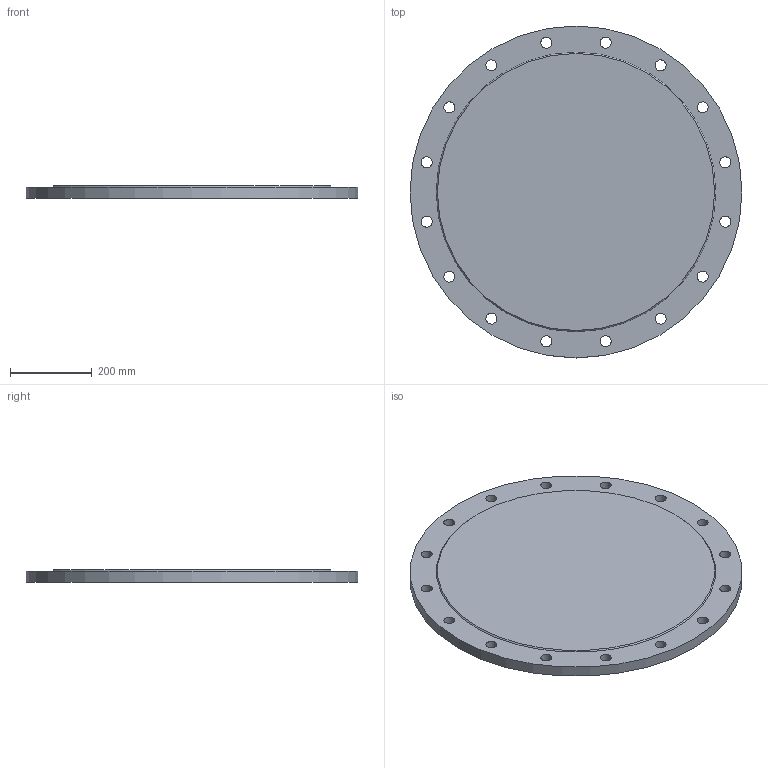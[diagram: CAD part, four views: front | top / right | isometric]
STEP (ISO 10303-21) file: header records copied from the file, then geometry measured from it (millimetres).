
FILE_DESCRIPTION(/* description */ (''),/* implementation_level */ '2;1');
FILE_NAME(/* name */ 'C:\Users\D\Documents\Inventor\HP\JIS\フランジ\水道用フランジF12\BL\ffws_bl_600.stp',/* time_stamp */ '2024-08-28T10:09:13+09:00',/* author */ ('D'),/* organization */ (''),/* preprocessor_version */ 'ST-DEVELOPER v18',/* originating_system */ 'Autodesk Inventor 2020',/* authorisation */ '');
FILE_SCHEMA (('AUTOMOTIVE_DESIGN { 1 0 10303 214 3 1 1 }'));
Length unit declared in the file: millimetre
Products named in the file (1): ffws_pl_80
Bounding box: 810 x 810 x 30 mm (x, y, z)
Volume: 14752058.3 mm3; surface area: 1120278.6 mm2
Topology: 1 solids, 1 shells, 21 faces, 74 edges, 56 vertices
Faces by surface type: cylinder 17, plane 3, cone 1
Full cylindrical faces by diameter (mm): 27 x16, 810 x1
Entity records: 969 total; most frequent: DIRECTION 174, CARTESIAN_POINT 152, ORIENTED_EDGE 148, AXIS2_PLACEMENT_3D 78, EDGE_CURVE 74, CIRCLE 56, VERTEX_POINT 56, EDGE_LOOP 54
